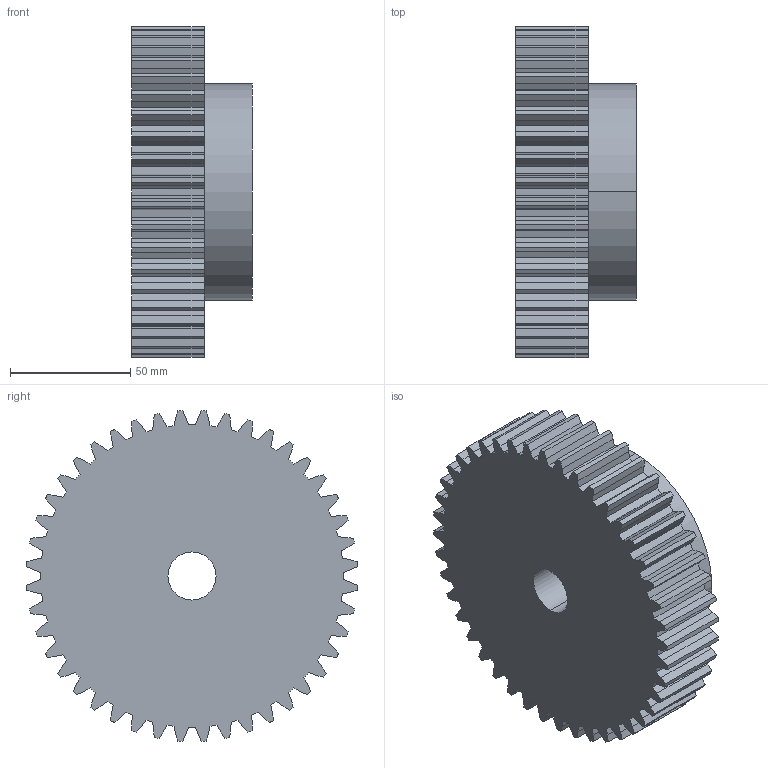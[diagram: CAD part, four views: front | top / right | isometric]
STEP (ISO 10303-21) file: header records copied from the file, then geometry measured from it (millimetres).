
FILE_DESCRIPTION (( 'STEP AP203' ), '1' );
FILE_NAME ('PM 30044.STEP', '2013-09-25T14:06:20', ( '' ), ( '' ), 'SwSTEP 2.0', 'SolidWorks 2010', '' );
FILE_SCHEMA (( 'CONFIG_CONTROL_DESIGN' ));
Length unit declared in the file: millimetre
Products named in the file (1): PM 30044
Bounding box: 50 x 137.78 x 137.78 mm (x, y, z)
Volume: 518311.2 mm3; surface area: 58754.7 mm2
Topology: 1 solids, 1 shells, 271 faces, 804 edges, 536 vertices
Faces by surface type: plane 179, cylinder 92
Entity records: 9319 total; most frequent: CARTESIAN_POINT 2374, ORIENTED_EDGE 1608, DIRECTION 1200, EDGE_CURVE 804, VERTEX_POINT 536, VECTOR 444, LINE 444, AXIS2_PLACEMENT_3D 378
